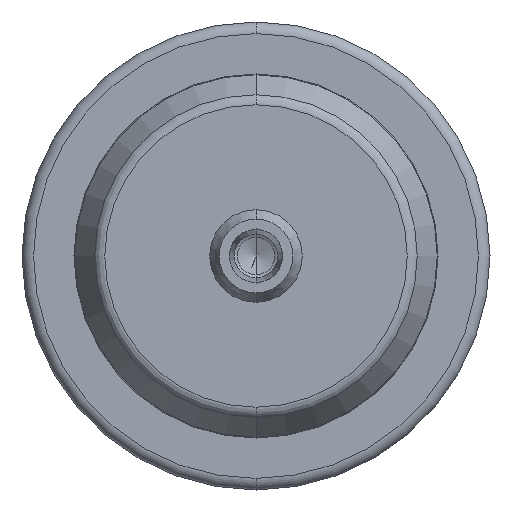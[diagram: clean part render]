
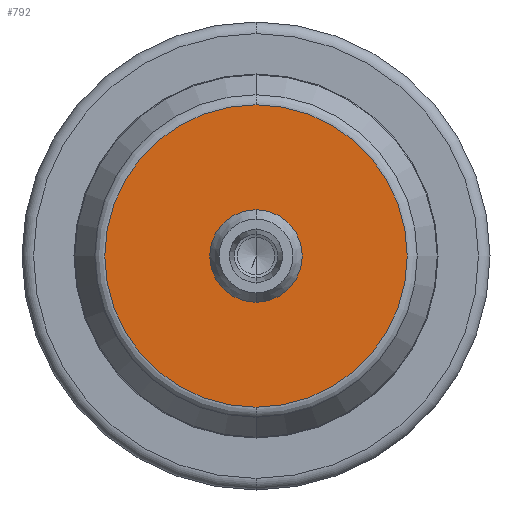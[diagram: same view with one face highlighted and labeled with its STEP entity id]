
A CAD part, front view. The second image highlights one B-rep face of the part: STEP entity #792.
In plain terms, the highlighted planar face has unit normal (0, -1, 0).
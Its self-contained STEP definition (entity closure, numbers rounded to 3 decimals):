
#63 = AXIS2_PLACEMENT_3D ( 'NONE', #1477, #1486, #1446 ) ;
#159 = CARTESIAN_POINT ( 'NONE',  ( 0., -17., -26.17 ) ) ;
#176 = CIRCLE ( 'NONE', #2160, 26.17 ) ;
#284 = ORIENTED_EDGE ( 'NONE', *, *, #1062, .F. ) ;
#285 = CARTESIAN_POINT ( 'NONE',  ( 26.17, -17., 0. ) ) ;
#329 = EDGE_CURVE ( 'NONE', #2080, #609, #1787, .T. ) ;
#438 = ORIENTED_EDGE ( 'NONE', *, *, #1119, .T. ) ;
#495 = ORIENTED_EDGE ( 'NONE', *, *, #329, .F. ) ;
#576 = VERTEX_POINT ( 'NONE', #1226 ) ;
#609 = VERTEX_POINT ( 'NONE', #1948 ) ;
#652 = DIRECTION ( 'NONE',  ( 0., 0., -1. ) ) ;
#660 = ORIENTED_EDGE ( 'NONE', *, *, #1649, .T. ) ;
#702 = DIRECTION ( 'NONE',  ( 0., 0., -1. ) ) ;
#703 = CARTESIAN_POINT ( 'NONE',  ( 0., -17., -6. ) ) ;
#782 = DIRECTION ( 'NONE',  ( 0., -1., 0. ) ) ;
#792 = ADVANCED_FACE ( 'NONE', ( #2237, #2222 ), #1698, .T. ) ;
#850 = DIRECTION ( 'NONE',  ( 0., -1., 0. ) ) ;
#973 = DIRECTION ( 'NONE',  ( 0., -1., 0. ) ) ;
#993 = CARTESIAN_POINT ( 'NONE',  ( 0., -17., 0. ) ) ;
#1052 = CIRCLE ( 'NONE', #63, 26.17 ) ;
#1062 = EDGE_CURVE ( 'NONE', #609, #2080, #1711, .T. ) ;
#1089 = AXIS2_PLACEMENT_3D ( 'NONE', #993, #782, #1473 ) ;
#1119 = EDGE_CURVE ( 'NONE', #1329, #576, #1052, .T. ) ;
#1174 = CARTESIAN_POINT ( 'NONE',  ( 0., -17., 0. ) ) ;
#1226 = CARTESIAN_POINT ( 'NONE',  ( 0., -17., 26.17 ) ) ;
#1329 = VERTEX_POINT ( 'NONE', #159 ) ;
#1446 = DIRECTION ( 'NONE',  ( 0., 0., -1. ) ) ;
#1473 = DIRECTION ( 'NONE',  ( 0., 0., -1. ) ) ;
#1477 = CARTESIAN_POINT ( 'NONE',  ( 0., -17., 0. ) ) ;
#1486 = DIRECTION ( 'NONE',  ( 0., -1., 0. ) ) ;
#1649 = EDGE_CURVE ( 'NONE', #576, #1329, #176, .T. ) ;
#1650 = CARTESIAN_POINT ( 'NONE',  ( 0., -17., 0. ) ) ;
#1670 = DIRECTION ( 'NONE',  ( 0., 0., -1. ) ) ;
#1698 = PLANE ( 'NONE',  #2119 ) ;
#1700 = EDGE_LOOP ( 'NONE', ( #438, #660 ) ) ;
#1711 = CIRCLE ( 'NONE', #1933, 6. ) ;
#1787 = CIRCLE ( 'NONE', #1089, 6. ) ;
#1933 = AXIS2_PLACEMENT_3D ( 'NONE', #1650, #973, #1670 ) ;
#1948 = CARTESIAN_POINT ( 'NONE',  ( 0., -17., 6. ) ) ;
#1954 = EDGE_LOOP ( 'NONE', ( #495, #284 ) ) ;
#2032 = DIRECTION ( 'NONE',  ( 0., -1., 0. ) ) ;
#2080 = VERTEX_POINT ( 'NONE', #703 ) ;
#2119 = AXIS2_PLACEMENT_3D ( 'NONE', #285, #2032, #702 ) ;
#2160 = AXIS2_PLACEMENT_3D ( 'NONE', #1174, #850, #652 ) ;
#2222 = FACE_BOUND ( 'NONE', #1954, .T. ) ;
#2237 = FACE_OUTER_BOUND ( 'NONE', #1700, .T. ) ;
